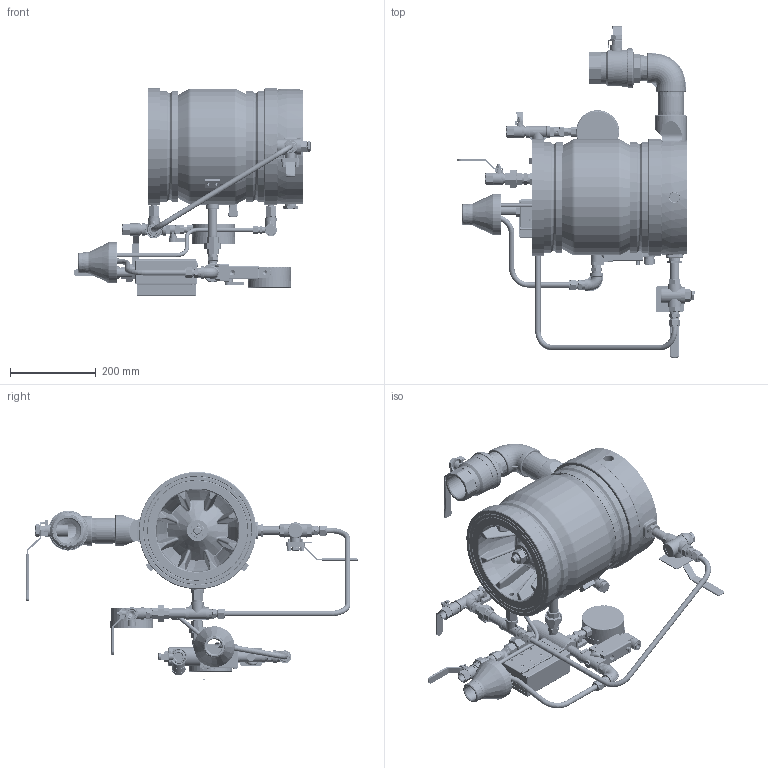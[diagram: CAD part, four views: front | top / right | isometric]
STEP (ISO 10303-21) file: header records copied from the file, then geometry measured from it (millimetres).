
FILE_DESCRIPTION(/* description */ (''),/* implementation_level */ '2;1');
FILE_NAME(/* name */ 'Z:\STANDARD SYSTEM\700DX-03C06\Step\799DX-03C06 FM UL Trim 8in.stp',/* time_stamp */ '2022-03-07T16:03:37+02:00',/* author */ ('alex'),/* organization */ (''),/* preprocessor_version */ 'ST-DEVELOPER v16.13',/* originating_system */ 'Autodesk Inventor 2018',/* authorisation */ '');
FILE_SCHEMA (('AUTOMOTIVE_DESIGN { 1 0 10303 214 3 1 1 }'));
Length unit declared in the file: millimetre
Products named in the file (126): 799DX-03C06 FM UL Trim 8in; Plug 34 SS; 5840; 799DX_8in; Nipple 2x82 SS; Elbow 2FxF SS; 351-32-02 angle 90; BODY_351-32-02; HANDLE_351-32-02; HANDLE_COVER_351-32-02; ANSI B18.2.2 - 5/8 - 11; 799D-8 DI; 4247; 4648; 4650; 4249; 3263 DI; 4430; 4515; 4514; 4105; 4679_rev01; 4105_MIR12; 3850-1; GASKET8; Solenoid-157 Assy; 157-61X; 157-61X Body; 151-7X; BODY BURKERT; BURKERT 330 COIL; BURKERT BUSH BUTTON; BURKERT CONDUIT; ISO 1207 - M 3 x 30; ISO 1207 - M 4 x 40; O'RING INCH; Q2611 - 1; Nipple 12x3,5 SS; 5375T; 31-08-01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
Assembly tree (164 placements, depth 5):
  799DX-03C06 FM UL Trim 8in
    Plug 34 SS
    Plug 12 SS  x3
    5840
    799DX_8in
      Nipple 2x82 SS
      Elbow 2FxF SS
      351-32-02 angle 90
        BODY_351-32-02
        HANDLE_351-32-02
        HANDLE_COVER_351-32-02
        ANSI B18.2.2 - 5/8 - 11
      799D-8 DI
        4247
        4648
        4650
        4249  x2
        3263 DI  x2
        4430
        4515  x2
        4514  x2
        4105
        4679_rev01
        4105_MIR12
      3850-1
      GASKET8
    Solenoid-157 Assy
      Nipple 12x2.5 SS
      157-61X
        157-61X Body
        151-7X
          BODY BURKERT
          BURKERT 330 COIL
          BURKERT BUSH BUTTON
          BURKERT CONDUIT
          ISO 1207 - M 3 x 30
          ISO 1207 - M 4 x 40  x4
    Q2611 - 1
    Nipple 12x3,5 SS
    5375T
    31-08-01
      BODY
      COVER_31-08-01
    6244-1
      6245-1
      0-RING Ø12xØ3
      DIN 472 - 18 x 1
      BALL OD14mm
      5214_
      6246
      6318
      0-RING2112
    Nipple 12 hex SS  x5
    Union 12 SS  x3
      Half Union 12M SS
      Half Union 12F SS
      Half Union F
    2072
      2073 rev01
        2073-1  rev01
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Bounding box: 551.71 x 772.83 x 484.19 mm (x, y, z)
Volume: 11323359.6 mm3; surface area: 2646728.1 mm2
Topology: 152 solids, 153 shells, 4962 faces, 11869 edges, 7434 vertices
Faces by surface type: plane 2311, cone 1005, cylinder 949, bspline 514, torus 176, sphere 7
Full cylindrical faces by diameter (mm): 0.625 x1, 2 x4, 2.693 x1, 3 x6, 3.242 x10, 3.571 x4, 4 x16, 4.1 x2, 4.134 x8, 4.5 x2, 4.978 x4, 5 x15, 5.25 x2, 5.5 x5, 5.8 x4, 6 x2, 6.33 x4, 6.35 x2, 6.4 x4, 6.5 x2, 6.647 x1, 6.88 x2, 7 x9, 7.036 x3, 7.3 x1, 7.5 x2, 7.515 x4, 7.6 x2, 7.715 x4, 8 x5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
Entity records: 119753 total; most frequent: CARTESIAN_POINT 34571, ORIENTED_EDGE 16312, DIRECTION 16102, EDGE_CURVE 8138, AXIS2_PLACEMENT_3D 5992, VERTEX_POINT 5476, EDGE_LOOP 4814, LINE 4118
